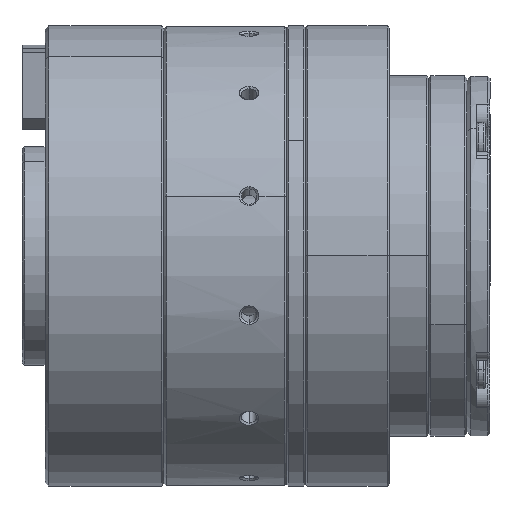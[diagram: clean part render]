
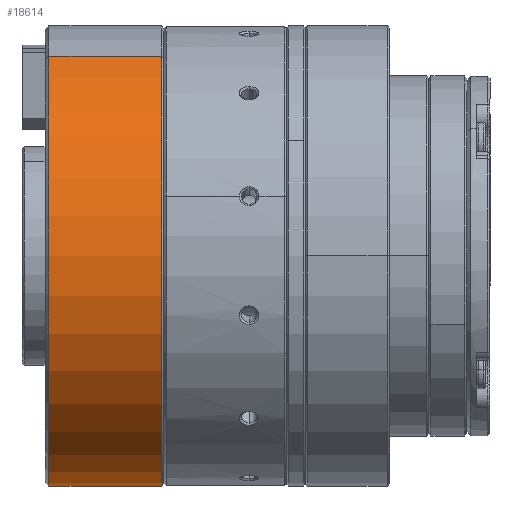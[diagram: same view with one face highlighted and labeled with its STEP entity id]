
A CAD part, top view. The second image highlights one B-rep face of the part: STEP entity #18614.
In plain terms, the highlighted cylindrical face has radius 30 mm (diameter 60 mm), a partial arc.
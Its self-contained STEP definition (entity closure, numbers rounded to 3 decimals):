
#2056 = DIRECTION ( 'NONE',  ( -1., 0., 0. ) ) ;
#2804 = CYLINDRICAL_SURFACE ( 'NONE', #20951, 30. ) ;
#3603 = VERTEX_POINT ( 'NONE', #32563 ) ;
#3958 = CARTESIAN_POINT ( 'NONE',  ( -29.3, 25.981, 15. ) ) ;
#4959 = EDGE_CURVE ( 'NONE', #37001, #5178, #21766, .T. ) ;
#5178 = VERTEX_POINT ( 'NONE', #24536 ) ;
#7674 = LINE ( 'NONE', #17049, #34849 ) ;
#9412 = DIRECTION ( 'NONE',  ( -1., 0., 0. ) ) ;
#9558 = ORIENTED_EDGE ( 'NONE', *, *, #21730, .T. ) ;
#11964 = ORIENTED_EDGE ( 'NONE', *, *, #15856, .T. ) ;
#15078 = EDGE_CURVE ( 'NONE', #3603, #29341, #7674, .T. ) ;
#15207 = DIRECTION ( 'NONE',  ( 0., 0.866, 0.5 ) ) ;
#15856 = EDGE_CURVE ( 'NONE', #3603, #37001, #16388, .T. ) ;
#16388 = CIRCLE ( 'NONE', #38098, 30. ) ;
#17049 = CARTESIAN_POINT ( 'NONE',  ( -43., -25.981, -15. ) ) ;
#17083 = EDGE_LOOP ( 'NONE', ( #11964, #24115, #9558, #20263 ) ) ;
#18614 = ADVANCED_FACE ( 'NONE', ( #20986 ), #2804, .T. ) ;
#18792 = DIRECTION ( 'NONE',  ( 0., -0.866, -0.5 ) ) ;
#20263 = ORIENTED_EDGE ( 'NONE', *, *, #15078, .F. ) ;
#20951 = AXIS2_PLACEMENT_3D ( 'NONE', #39591, #9412, #18792 ) ;
#20986 = FACE_OUTER_BOUND ( 'NONE', #17083, .T. ) ;
#21730 = EDGE_CURVE ( 'NONE', #5178, #29341, #22441, .T. ) ;
#21766 = LINE ( 'NONE', #25364, #29053 ) ;
#22360 = DIRECTION ( 'NONE',  ( -1., 0., 0. ) ) ;
#22441 = CIRCLE ( 'NONE', #39014, 30. ) ;
#23457 = CARTESIAN_POINT ( 'NONE',  ( -44., -25.981, -15. ) ) ;
#24115 = ORIENTED_EDGE ( 'NONE', *, *, #4959, .T. ) ;
#24536 = CARTESIAN_POINT ( 'NONE',  ( -44., 25.981, 15. ) ) ;
#25364 = CARTESIAN_POINT ( 'NONE',  ( -43., 25.981, 15. ) ) ;
#29053 = VECTOR ( 'NONE', #22360, 1000. ) ;
#29341 = VERTEX_POINT ( 'NONE', #23457 ) ;
#29481 = DIRECTION ( 'NONE',  ( -1., 0., 0. ) ) ;
#30998 = CARTESIAN_POINT ( 'NONE',  ( -44., 0., 0. ) ) ;
#32563 = CARTESIAN_POINT ( 'NONE',  ( -29.3, -25.981, -15. ) ) ;
#32673 = DIRECTION ( 'NONE',  ( 0., 0.866, 0.5 ) ) ;
#34849 = VECTOR ( 'NONE', #2056, 1000. ) ;
#35495 = CARTESIAN_POINT ( 'NONE',  ( -29.3, 0., 0. ) ) ;
#36190 = DIRECTION ( 'NONE',  ( 1., 0., 0. ) ) ;
#37001 = VERTEX_POINT ( 'NONE', #3958 ) ;
#38098 = AXIS2_PLACEMENT_3D ( 'NONE', #35495, #29481, #32673 ) ;
#39014 = AXIS2_PLACEMENT_3D ( 'NONE', #30998, #36190, #15207 ) ;
#39591 = CARTESIAN_POINT ( 'NONE',  ( -43., 0., 0. ) ) ;
